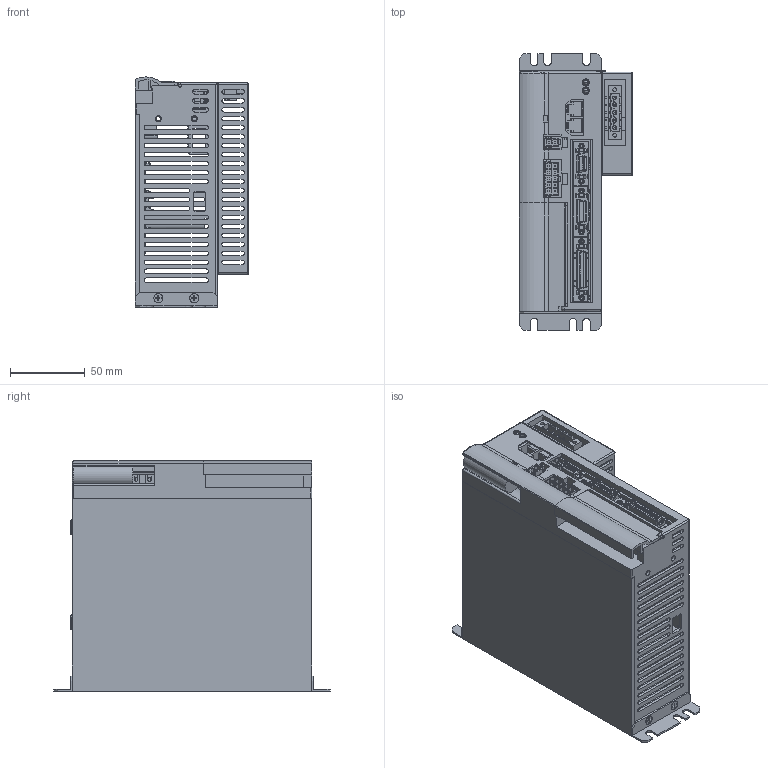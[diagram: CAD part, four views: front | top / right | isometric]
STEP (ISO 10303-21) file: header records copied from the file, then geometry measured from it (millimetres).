
FILE_DESCRIPTION( (''), '2;1');
FILE_NAME ('CA25-M10-_DC_3D.stp','2016-05-25T10:39:41',(''),(''),'spGate 11.3.10','spGate','');
FILE_SCHEMA (('AUTOMOTIVE_DESIGN'));
Length unit declared in the file: millimetre
Products named in the file (222): Assembly; CA25-M10-_DC_3D-prt0; CA25-M10-_DC_3D-prt1; CA25-M10-_DC_3D-prt2; CA25-M10-_DC_3D-prt3; CA25-M10-_DC_3D-prt4; CA25-M10-_DC_3D-prt5; CA25-M10-_DC_3D-prt6; CA25-M10-_DC_3D-prt7; CA25-M10-_DC_3D-prt8; CA25-M10-_DC_3D-prt9; CA25-M10-_DC_3D-prt10; CA25-M10-_DC_3D-prt11; CA25-M10-_DC_3D-prt12; CA25-M10-_DC_3D-prt13; CA25-M10-_DC_3D-prt14; CA25-M10-_DC_3D-prt15; CA25-M10-_DC_3D-prt16; CA25-M10-_DC_3D-prt17; CA25-M10-_DC_3D-prt18; CA25-M10-_DC_3D-prt19; CA25-M10-_DC_3D-prt20; CA25-M10-_DC_3D-prt21; CA25-M10-_DC_3D-prt22; CA25-M10-_DC_3D-prt23; CA25-M10-_DC_3D-prt24; CA25-M10-_DC_3D-prt25; CA25-M10-_DC_3D-prt26; CA25-M10-_DC_3D-prt27; CA25-M10-_DC_3D-prt28; CA25-M10-_DC_3D-prt29; CA25-M10-_DC_3D-prt30; CA25-M10-_DC_3D-prt31; CA25-M10-_DC_3D-prt32; CA25-M10-_DC_3D-prt33; CA25-M10-_DC_3D-prt34; CA25-M10-_DC_3D-prt35; CA25-M10-_DC_3D-prt36; CA25-M10-_DC_3D-prt37; CA25-M10-_DC_3D-prt38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
Assembly tree (221 placements, depth 2):
  Assembly
    CA25-M10-_DC_3D-prt0
    CA25-M10-_DC_3D-prt1
    CA25-M10-_DC_3D-prt2
    CA25-M10-_DC_3D-prt3
    CA25-M10-_DC_3D-prt4
    CA25-M10-_DC_3D-prt5
    CA25-M10-_DC_3D-prt6
    CA25-M10-_DC_3D-prt7
    CA25-M10-_DC_3D-prt8
    CA25-M10-_DC_3D-prt9
    CA25-M10-_DC_3D-prt10
    CA25-M10-_DC_3D-prt11
    CA25-M10-_DC_3D-prt12
    CA25-M10-_DC_3D-prt13
    CA25-M10-_DC_3D-prt14
    CA25-M10-_DC_3D-prt15
    CA25-M10-_DC_3D-prt16
    CA25-M10-_DC_3D-prt17
    CA25-M10-_DC_3D-prt18
    CA25-M10-_DC_3D-prt19
    CA25-M10-_DC_3D-prt20
    CA25-M10-_DC_3D-prt21
    CA25-M10-_DC_3D-prt22
    CA25-M10-_DC_3D-prt23
    CA25-M10-_DC_3D-prt24
    CA25-M10-_DC_3D-prt25
    CA25-M10-_DC_3D-prt26
    CA25-M10-_DC_3D-prt27
    CA25-M10-_DC_3D-prt28
    CA25-M10-_DC_3D-prt29
    CA25-M10-_DC_3D-prt30
    CA25-M10-_DC_3D-prt31
    CA25-M10-_DC_3D-prt32
    CA25-M10-_DC_3D-prt33
    CA25-M10-_DC_3D-prt34
    CA25-M10-_DC_3D-prt35
    CA25-M10-_DC_3D-prt36
    CA25-M10-_DC_3D-prt37
    CA25-M10-_DC_3D-prt38
    CA25-M10-_DC_3D-prt39
    CA25-M10-_DC_3D-prt40
    CA25-M10-_DC_3D-prt41
    CA25-M10-_DC_3D-prt42
    CA25-M10-_DC_3D-prt43
    CA25-M10-_DC_3D-prt44
    CA25-M10-_DC_3D-prt45
    CA25-M10-_DC_3D-prt46
    CA25-M10-_DC_3D-prt47
    CA25-M10-_DC_3D-prt48
    CA25-M10-_DC_3D-prt49
    CA25-M10-_DC_3D-prt50
    CA25-M10-_DC_3D-prt51
    CA25-M10-_DC_3D-prt52
    CA25-M10-_DC_3D-prt53
    CA25-M10-_DC_3D-prt54
    CA25-M10-_DC_3D-prt55
    CA25-M10-_DC_3D-prt56
    CA25-M10-_DC_3D-prt57
    CA25-M10-_DC_3D-prt58
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Bounding box: 76 x 185 x 153.99 mm (x, y, z)
Volume: 252398.7 mm3; surface area: 249777 mm2
Topology: 46 solids, 49 shells, 4570 faces, 12801 edges, 8693 vertices
Faces by surface type: plane 3545, cylinder 899, bspline 105, sphere 21
Entity records: 256894 total; most frequent: CARTESIAN_POINT 33719, ORIENTED_EDGE 25048, DIRECTION 23780, COLOUR_RGB 17390, PRESENTATION_STYLE_ASSIGNMENT 17390, STYLED_ITEM 17390, DRAUGHTING_PRE_DEFINED_CURVE_FONT 12771, CURVE_STYLE 12771
